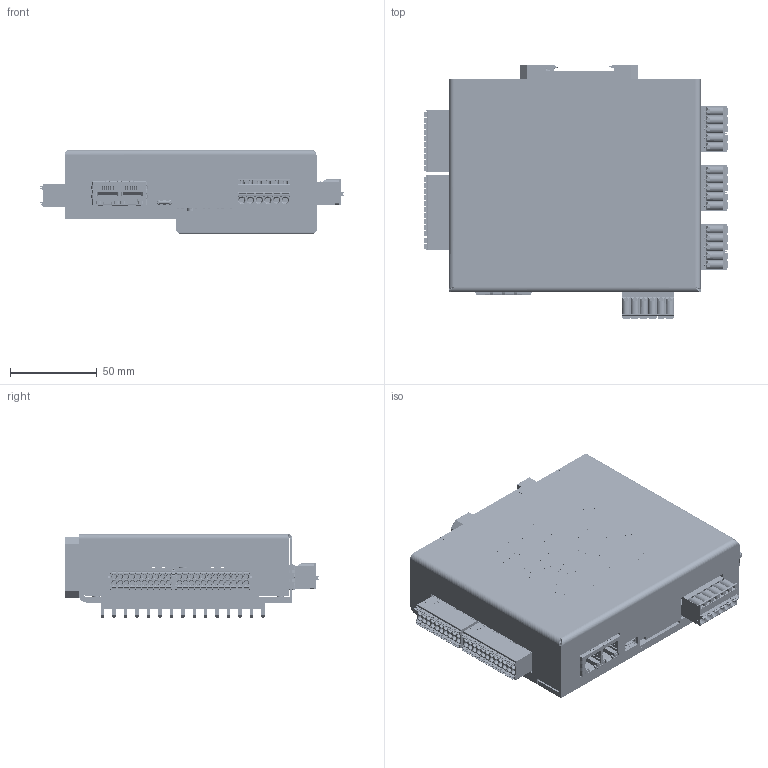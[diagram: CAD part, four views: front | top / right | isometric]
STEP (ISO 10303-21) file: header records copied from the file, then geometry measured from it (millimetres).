
FILE_DESCRIPTION (( 'STEP AP214' ), '1' );
FILE_NAME ('SMD2204Hxx.STEP', '2025-06-24T10:21:22', ( '' ), ( '' ), 'SwSTEP 2.0', 'SolidWorks 2019', '' );
FILE_SCHEMA (( 'AUTOMOTIVE_DESIGN' ));
Length unit declared in the file: millimetre
Products named in the file (24): VITCOE-M3-304-FMNN; fkc_2.5-6-st; FIX-DIN6835; LABPA-080x070-S2_SMD2204; LABPA-022x008-S1_SMD2204; countersunk flat head cross recess screw_din_DIN EN ISO 7046-1 - M4 x 10 - Z - 10N; LED-0805-RED_LED_0805_RED-1; HEASMD2204HAPAB; HEASMD2204APAB_PEM; D0805-KPHBM-2012_LED_KPHBM-2012SURKCGKC-1; pxc_1790205_02_DFMC-1-5-12-ST-3-5_3D; LED-0805-YEL_LED_0805_YELLOW-1; fkc_2.5-5-st-5.08; pan head cross recess screw_iso_ISO 7045 - M3 x 4 - Z - 4N; SMD2204Hxx; DFMC_1.5-10-ST-3.5; RJ45X2-WE-7499021125_RJ45X2-WE-7499021125-1; countersunk flat head cross recess screw_iso_ISO 7046-1 - M3 x 6 - Z - 6N; thru-hole standoff_pmm_PEM SO-M3-6 ZI--N; SMD2204_L_V10; COVSMD2204LI-J-ALG; 5US4C14MF-116G0BUH41; HEASMD2204APAB; SMD2204_L_V10_BOARD
Assembly tree (45 placements, depth 3):
  SMD2204Hxx
    SMD2204_L_V10
      SMD2204_L_V10_BOARD
      LED-0805-YEL_LED_0805_YELLOW-1
      D0805-KPHBM-2012_LED_KPHBM-2012SURKCGKC-1  x10
      LED-0805-RED_LED_0805_RED-1
      RJ45X2-WE-7499021125_RJ45X2-WE-7499021125-1
    HEASMD2204APAB_PEM
      HEASMD2204APAB
      thru-hole standoff_pmm_PEM SO-M3-6 ZI--N  x5
    pan head cross recess screw_iso_ISO 7045 - M3 x 4 - Z - 4N  x4
    COVSMD2204LI-J-ALG
    VITCOE-M3-304-FMNN
    5US4C14MF-116G0BUH41
    LABPA-080x070-S2_SMD2204
    fkc_2.5-6-st
    fkc_2.5-5-st-5.08  x3
    pxc_1790205_02_DFMC-1-5-12-ST-3-5_3D
    DFMC_1.5-10-ST-3.5
    FIX-DIN6835
    countersunk flat head cross recess screw_din_DIN EN ISO 7046-1 - M4 x 10 - Z - 10N  x3
    HEASMD2204HAPAB
    countersunk flat head cross recess screw_iso_ISO 7046-1 - M3 x 6 - Z - 6N  x3
    LABPA-022x008-S1_SMD2204
Bounding box: 175.31 x 146.47 x 48.53 mm (x, y, z)
Volume: 235038.2 mm3; surface area: 232111 mm2
Topology: 58 solids, 60 shells, 17058 faces, 46136 edges, 29947 vertices
Faces by surface type: plane 10167, cylinder 3535, bspline 2642, cone 566, torus 140, sphere 8
Entity records: 723693 total; most frequent: CARTESIAN_POINT 249857, ORIENTED_EDGE 83760, DIRECTION 66555, EDGE_CURVE 41884, LINE 28857, VECTOR 28857, VERTEX_POINT 27317, AXIS2_PLACEMENT_3D 18849
